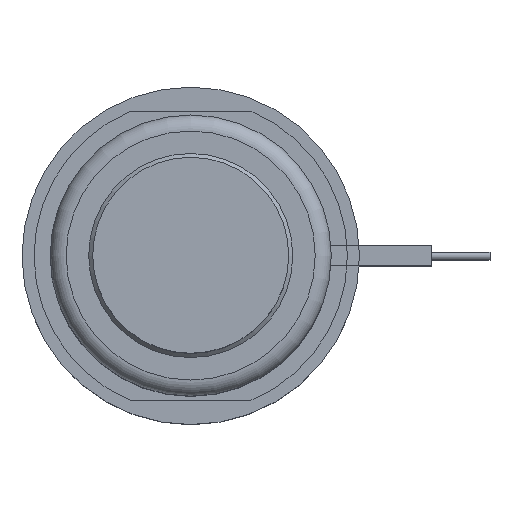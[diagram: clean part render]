
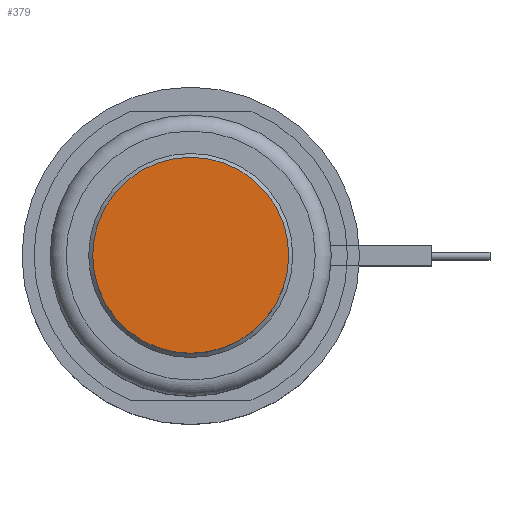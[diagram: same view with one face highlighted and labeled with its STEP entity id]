
A CAD part, top view. The second image highlights one B-rep face of the part: STEP entity #379.
In plain terms, the highlighted planar face has unit normal (0, 0, 1).
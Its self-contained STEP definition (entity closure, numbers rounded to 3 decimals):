
#241=PLANE('',#1394);
#289=FACE_OUTER_BOUND('',#615,.T.);
#379=ADVANCED_FACE('',(#289),#241,.F.);
#615=EDGE_LOOP('',(#771));
#771=ORIENTED_EDGE('',*,*,#1149,.F.);
#1035=VERTEX_POINT('',#2031);
#1149=EDGE_CURVE('',#1035,#1035,#1290,.T.);
#1290=CIRCLE('',#1393,12.2);
#1393=AXIS2_PLACEMENT_3D('',#2030,#1616,#1617);
#1394=AXIS2_PLACEMENT_3D('',#2032,#1618,#1619);
#1616=DIRECTION('',(0.,0.,-1.));
#1617=DIRECTION('',(-1.,0.,0.));
#1618=DIRECTION('',(0.,0.,-1.));
#1619=DIRECTION('',(-1.,0.,0.));
#2030=CARTESIAN_POINT('',(0.,0.,18.));
#2031=CARTESIAN_POINT('',(-12.2,0.,18.));
#2032=CARTESIAN_POINT('',(0.,0.,18.));
